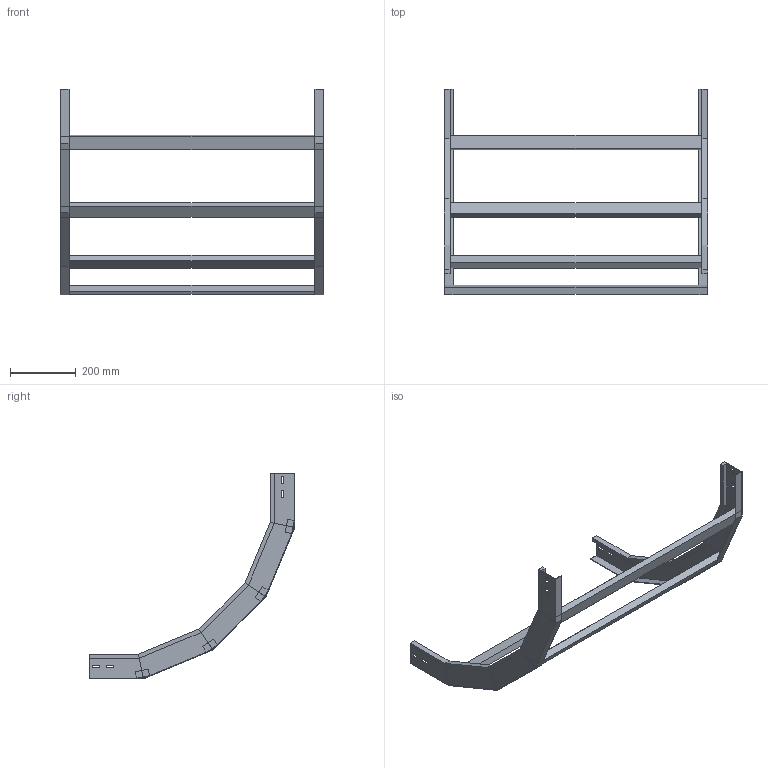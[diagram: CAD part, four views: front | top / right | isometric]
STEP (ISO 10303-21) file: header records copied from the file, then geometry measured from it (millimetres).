
FILE_DESCRIPTION (( 'STEP AP214' ), '1' );
FILE_NAME ('B2X30B5C800XX.step', '2025-03-20T10:26:06', ( '' ), ( '' ), 'SwSTEP 2.0', 'SolidWorks 2023', '' );
FILE_SCHEMA (( 'AUTOMOTIVE_DESIGN' ));
Length unit declared in the file: millimetre
Products named in the file (3): B2X30B5C800XX; LONGH.SALITA_90°_H75_R500; TRAVERSINO_800
Assembly tree (6 placements, depth 2):
  B2X30B5C800XX
    LONGH.SALITA_90°_H75_R500  x2
    TRAVERSINO_800  x4
Bounding box: 800 x 624.12 x 624.12 mm (x, y, z)
Volume: 3311170.9 mm3; surface area: 844723.8 mm2
Topology: 6 solids, 6 shells, 140 faces, 320 edges, 192 vertices
Faces by surface type: plane 140
Entity records: 1872 total; most frequent: CARTESIAN_POINT 309, ORIENTED_EDGE 296, DIRECTION 294, VECTOR 148, LINE 148, EDGE_CURVE 148, VERTEX_POINT 88, AXIS2_PLACEMENT_3D 73
